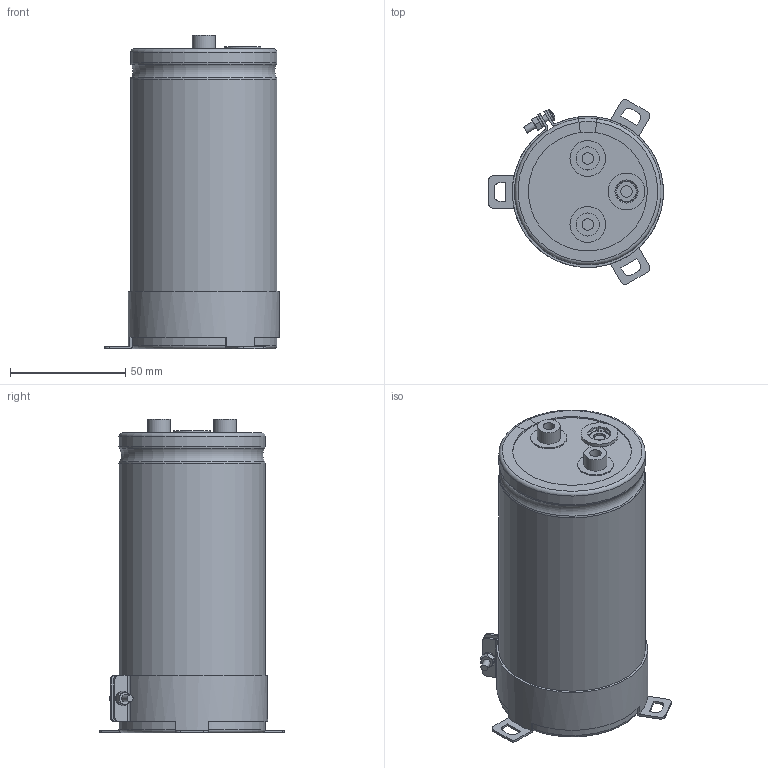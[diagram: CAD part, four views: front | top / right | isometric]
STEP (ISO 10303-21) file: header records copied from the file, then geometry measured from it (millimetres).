
FILE_DESCRIPTION(/* description */ (''),/* implementation_level */ '2;1');
FILE_NAME(/* name */ '63.5x130_Screw.stp',/* time_stamp */ '2017-09-15T19:40:08+09:00',/* author */ (''),/* organization */ (''),/* preprocessor_version */ 'ST-DEVELOPER v16',/* originating_system */ 'SIEMENS PLM Software NX 11.0',/* authorisation */ '');
FILE_SCHEMA (('AUTOMOTIVE_DESIGN { 1 0 10303 214 3 1 1 1 }'));
Length unit declared in the file: millimetre
Products named in the file (1): 63.5x130_Screw
Bounding box: 75.75 x 80.01 x 136 mm (x, y, z)
Volume: 413942.8 mm3; surface area: 98669.7 mm2
Topology: 9 solids, 9 shells, 259 faces, 644 edges, 415 vertices
Faces by surface type: plane 112, cylinder 66, torus 49, cone 31, sphere 1
Full cylindrical faces by diameter (mm): 3 x5, 5 x6, 5.5 x2, 10 x4, 15.5 x2, 16 x1, 62.3 x2
Entity records: 8411 total; most frequent: CARTESIAN_POINT 2059, DIRECTION 1296, ORIENTED_EDGE 1214, EDGE_CURVE 607, AXIS2_PLACEMENT_3D 541, VERTEX_POINT 408, EDGE_LOOP 317, CIRCLE 281
